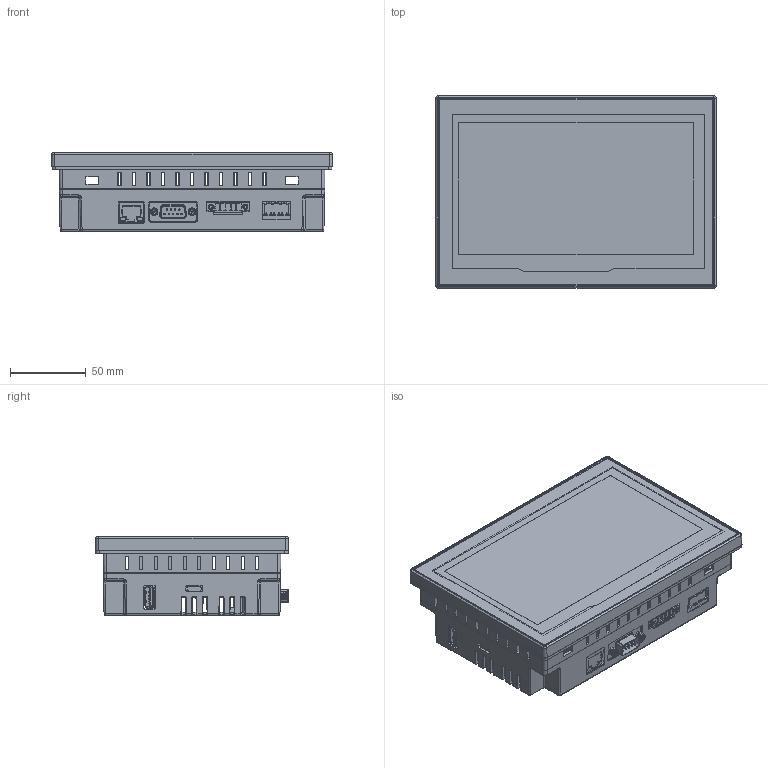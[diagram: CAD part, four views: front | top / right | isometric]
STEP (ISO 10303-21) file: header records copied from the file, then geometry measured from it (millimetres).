
FILE_DESCRIPTION (( 'STEP AP203' ), '1' );
FILE_NAME ('CM-eXT2-07-R-DE.STEP', '2025-06-27T05:13:15', ( '' ), ( '' ), 'SwSTEP 2.0', 'SolidWorks 2024', '' );
FILE_SCHEMA (( 'CONFIG_CONTROL_DESIGN' ));
Products named in the file (1): CM-eXT2-07-R-DE
Bounding box: 185 x 127 x 51.9 mm (x, y, z)
Volume: 168568.5 mm3; surface area: 185679.7 mm2
Topology: 1 solids, 11 shells, 5525 faces, 15619 edges, 10073 vertices
Faces by surface type: plane 3575, cylinder 1319, bspline 332, sphere 145, cone 116, torus 38
Entity records: 196648 total; most frequent: CARTESIAN_POINT 56101, ORIENTED_EDGE 31012, DIRECTION 27006, EDGE_CURVE 15506, VECTOR 11370, LINE 11370, VERTEX_POINT 10055, AXIS2_PLACEMENT_3D 7818
